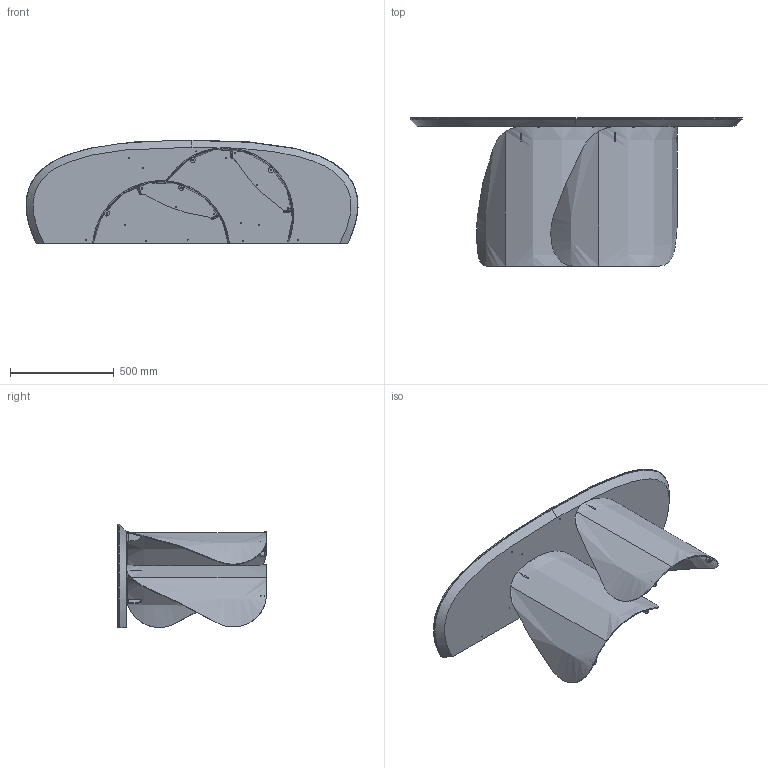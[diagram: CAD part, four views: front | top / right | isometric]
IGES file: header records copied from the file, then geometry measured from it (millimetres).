
Start section: SolidWorks IGES file using analytic representation for surfaces
Global section: file name: Y:\eforma\TECNICO\SOLIDWORKS\E-FORMA\3-CONSOLE\ONDA CONSOLE\02 parts\ON60C_Onda Console_160x50x72h_Ceramic Shaped.IGS; native system: SolidWorks 2022; preprocessor: SolidWorks 2022; author: eforma.tech; date: 240806.114756; units: millimetre
Bounding box: 1599.73 x 716 x 500 mm (x, y, z)
Volume: 33657776.6 mm3; surface area: 5252614.2 mm2
Topology: 10 solids, 10 shells, 282 faces, 713 edges, 431 vertices
Faces by surface type: revolution 170, plane 66, bspline 46
